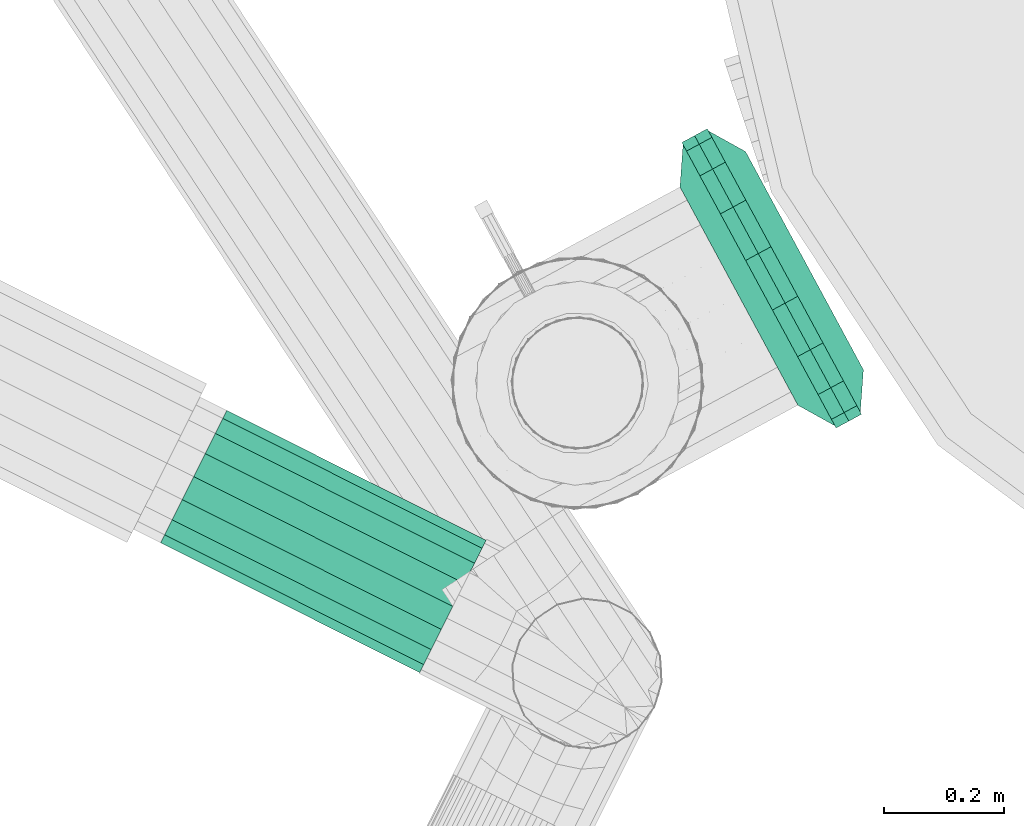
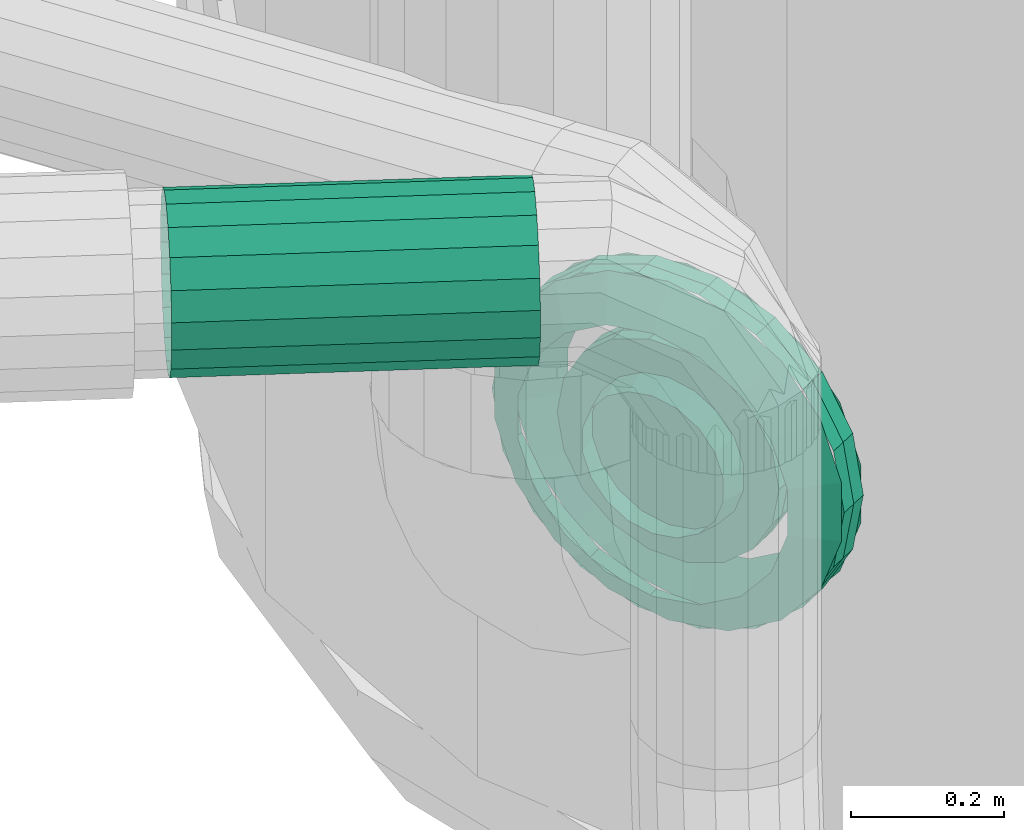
# One storey, part 96 of 206: 2 flow fittings, 1 flow segment.
"""IFC2X3 building model written with IfcOpenShell, lengths in metres."""

from ifc_helpers import new_model, si_unit, derived_unit, direction, frame, origin, place, context, subcontext, project, spatial, face_set, surface_model, source, transform, mapped, material, type_object, type_shapes, element, save


model = new_model("IFC2X3")

# Units and contexts
model_context = context("Model", 3, precision=5.2338327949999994e-05, world=origin(), true_north=direction((0.0, 1.0)))
body_context = subcontext(model_context, "Body", "Model", "MODEL_VIEW")
ifc_project = project(units=[si_unit("LENGTHUNIT", "METRE"), si_unit("AREAUNIT", "SQUARE_METRE"), si_unit("VOLUMEUNIT", "CUBIC_METRE"), si_unit("MASSUNIT", "GRAM", prefix="KILO"), si_unit("PLANEANGLEUNIT", "RADIAN"), derived_unit("THERMALTRANSMITTANCEUNIT", [(si_unit("MASSUNIT", "GRAM", prefix="KILO"), 1), (si_unit("THERMODYNAMICTEMPERATUREUNIT", "KELVIN"), -1), (si_unit("TIMEUNIT", "SECOND"), -3)])], contexts=[model_context])

# Site, building, storey
site_placement = place(None, frame((0.0, 0.0, 0.0), z_axis=(0.0, 0.0, 1.0), x_axis=(0.8939966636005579, -0.4480736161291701, 0.0)))
site = spatial("IfcSite", under=ifc_project, at=site_placement, Name="Default", CompositionType="ELEMENT")
building_placement = place(site_placement, origin())
building = spatial("IfcBuilding", under=site, at=building_placement, CompositionType="ELEMENT")
storey_placement = place(building_placement, origin())
storey = spatial("IfcBuildingStorey", under=building, at=storey_placement, Name="Erdgeschoss", CompositionType="ELEMENT", Elevation=0.0)

# Flow segment
ifc_material_1 = material(Name="IfcSurfaceStyle #251447")
distribution_element_type_1 = type_object("IfcDistributionElementType", Name="Wickelfalzrohr 282826:Wickelfalzrohr 282826", material=ifc_material_1)
shared_shape_1 = source(origin(), body_context, "Body", "SurfaceModel", [
    surface_model("IfcFaceBasedSurfaceModel", [(33.90757135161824, 8.794603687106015, 2.3249999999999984), (33.90757135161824, 8.837356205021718, 2.3174615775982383), (33.425259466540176, 8.837356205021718, 2.317461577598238), (33.425259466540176, 8.79460368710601, 2.3249999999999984), (33.90757135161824, 8.874952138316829, 2.2957555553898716), (33.425259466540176, 8.874952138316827, 2.2957555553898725), (33.90757135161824, 8.902856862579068, 2.2625), (33.425259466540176, 8.902856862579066, 2.2625000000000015), (33.90757135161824, 8.91770465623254, 2.2217060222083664), (33.425259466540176, 8.917704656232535, 2.2217060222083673), (33.90757135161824, 8.917704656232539, 2.1782939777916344), (33.425259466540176, 8.917704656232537, 2.1782939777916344), (33.90757135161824, 8.902856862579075, 2.1374999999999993), (33.425259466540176, 8.902856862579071, 2.1375000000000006), (33.90757135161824, 8.874952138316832, 2.104244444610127), (33.425259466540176, 8.874952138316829, 2.104244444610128), (33.90757135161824, 8.837356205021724, 2.0825384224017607), (33.425259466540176, 8.837356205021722, 2.0825384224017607), (33.90757135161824, 8.794603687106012, 2.0749999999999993), (33.425259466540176, 8.794603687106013, 2.0749999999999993), (33.90757135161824, 8.751851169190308, 2.082538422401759), (33.425259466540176, 8.751851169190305, 2.0825384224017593), (33.90757135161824, 8.714255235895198, 2.1042444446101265), (33.425259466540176, 8.714255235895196, 2.1042444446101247), (33.90757135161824, 8.686350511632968, 2.137499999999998), (33.425259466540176, 8.686350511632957, 2.137499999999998), (33.90757135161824, 8.671502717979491, 2.1782939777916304), (33.425259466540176, 8.671502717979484, 2.1782939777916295), (33.90757135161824, 8.671502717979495, 2.2217060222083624), (33.425259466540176, 8.671502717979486, 2.2217060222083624), (33.90757135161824, 8.686350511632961, 2.262499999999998), (33.425259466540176, 8.686350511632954, 2.2624999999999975), (33.90757135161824, 8.714255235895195, 2.2957555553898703), (33.425259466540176, 8.714255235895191, 2.2957555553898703), (33.90757135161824, 8.751851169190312, 2.317461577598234), (33.425259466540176, 8.751851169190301, 2.317461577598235)], [face_set([[[0, 1, 2, 3]], [[1, 4, 5, 2]], [[4, 6, 7, 5]], [[6, 8, 9, 7]], [[8, 10, 11, 9]], [[10, 12, 13, 11]], [[12, 14, 15, 13]], [[14, 16, 17, 15]], [[16, 18, 19, 17]], [[18, 20, 21, 19]], [[20, 22, 23, 21]], [[22, 24, 25, 23]], [[24, 26, 27, 25]], [[26, 28, 29, 27]], [[28, 30, 31, 29]], [[30, 32, 33, 31]], [[32, 34, 35, 33]], [[34, 0, 3, 35]]])]),
])
type_shapes(distribution_element_type_1, [shared_shape_1])
flow_segment_placement = place(storey_placement, origin())
element("IfcFlowSegment", 1, at=flow_segment_placement, inside=storey, type_object=distribution_element_type_1, material=ifc_material_1, Name="Wickelfalzrohr", ObjectType="Wickelfalzrohr", context=body_context, shape_type="MappedRepresentation", body=[
    mapped(shared_shape_1, transform((0.0, 0.0, 0.0), scale=1.0)),
])

# Flow fittings
ifc_material_2 = material(Name="IfcSurfaceStyle #1741")
distribution_element_type_2 = type_object("IfcDistributionElementType", Name="Flansch 301516:Flansch 301516", material=ifc_material_2)
shared_shape_2 = source(origin(), body_context, "Body", "SurfaceModel", [
    surface_model("IfcFaceBasedSurfaceModel", [(34.172842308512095, 9.571179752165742, 1.5190999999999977), (34.142150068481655, 9.592670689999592, 1.5124933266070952), (34.118126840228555, 9.563102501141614, 1.5199638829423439), (34.15104640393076, 9.540051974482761, 1.527049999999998), (34.115159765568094, 9.611569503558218, 1.4934701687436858), (34.089177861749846, 9.583372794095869, 1.4995602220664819), (34.095126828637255, 9.62559671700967, 1.464325), (34.067691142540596, 9.598417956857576, 1.4683000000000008), (34.08446752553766, 9.633060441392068, 1.4285731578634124), (34.05625829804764, 9.606423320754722, 1.4299536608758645), (34.08446752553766, 9.63306044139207, 1.3905268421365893), (34.05625829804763, 9.606423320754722, 1.3891463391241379), (34.095126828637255, 9.62559671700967, 1.3547749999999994), (34.06769114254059, 9.59841795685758, 1.3508000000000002), (34.115159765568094, 9.611569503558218, 1.3256298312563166), (34.08917786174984, 9.583372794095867, 1.3195397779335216), (34.14215006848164, 9.592670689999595, 1.3066066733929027), (34.11812684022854, 9.563102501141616, 1.299136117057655), (34.17284230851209, 9.571179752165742, 1.2999999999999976), (34.151046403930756, 9.540051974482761, 1.2920499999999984), (34.20353454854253, 9.549688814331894, 1.3066066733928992), (34.183965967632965, 9.517001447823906, 1.299136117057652), (34.23052485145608, 9.530790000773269, 1.325629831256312), (34.212914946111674, 9.496731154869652, 1.3195397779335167), (34.25055778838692, 9.51676278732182, 1.354774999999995), (34.23440166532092, 9.481685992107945, 1.3507999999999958), (34.26121709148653, 9.509299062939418, 1.3905268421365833), (34.245834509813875, 9.4736806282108, 1.3891463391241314), (34.26121709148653, 9.509299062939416, 1.4285731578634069), (34.24583450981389, 9.473680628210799, 1.4299536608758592), (34.25055778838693, 9.516762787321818, 1.4643249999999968), (34.23440166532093, 9.481685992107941, 1.4682999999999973), (34.23052485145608, 9.530790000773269, 1.49347016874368), (34.212914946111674, 9.496731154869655, 1.4995602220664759), (34.20353454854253, 9.549688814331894, 1.5124933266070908), (34.18396596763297, 9.517001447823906, 1.5199638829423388), (34.011790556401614, 9.63755996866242, 1.4095500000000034), (34.02018871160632, 9.631679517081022, 1.3514065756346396), (34.00642287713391, 9.612019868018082, 1.3514065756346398), (33.9980247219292, 9.61790031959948, 1.4095500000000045), (34.044370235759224, 9.614747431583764, 1.300276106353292), (34.0306044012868, 9.595087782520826, 1.3002761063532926), (34.08141848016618, 9.588805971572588, 1.262325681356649), (34.06765264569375, 9.56914632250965, 1.2623256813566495), (34.126864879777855, 9.556984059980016, 1.2421326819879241), (34.11309904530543, 9.537324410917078, 1.2421326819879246), (34.17522792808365, 9.523119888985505, 1.2421326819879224), (34.161462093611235, 9.503460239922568, 1.2421326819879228), (34.22067432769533, 9.491297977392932, 1.2623256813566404), (34.206908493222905, 9.471638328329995, 1.2623256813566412), (34.257722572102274, 9.465356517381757, 1.3002761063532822), (34.24395673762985, 9.445696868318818, 1.3002761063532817), (34.281904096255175, 9.448424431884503, 1.3514065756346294), (34.26813826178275, 9.428764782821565, 1.3514065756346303), (34.29030225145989, 9.442543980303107, 1.4095499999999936), (34.27653641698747, 9.422884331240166, 1.409549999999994), (34.28190409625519, 9.448424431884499, 1.4676934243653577), (34.26813826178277, 9.428764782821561, 1.4676934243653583), (34.25772257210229, 9.465356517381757, 1.5188238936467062), (34.243956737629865, 9.44569686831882, 1.5188238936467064), (34.22067432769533, 9.491297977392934, 1.55677431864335), (34.20690849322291, 9.471638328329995, 1.556774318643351), (34.17522792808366, 9.523119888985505, 1.5769673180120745), (34.161462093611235, 9.503460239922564, 1.576967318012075), (34.12686487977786, 9.556984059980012, 1.576967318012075), (34.11309904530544, 9.537324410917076, 1.5769673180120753), (34.081418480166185, 9.588805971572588, 1.5567743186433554), (34.06765264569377, 9.569146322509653, 1.556774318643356), (34.04437023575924, 9.614747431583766, 1.5188238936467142), (34.030604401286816, 9.595087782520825, 1.518823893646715), (34.02018871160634, 9.631679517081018, 1.4676934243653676), (34.00642287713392, 9.612019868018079, 1.4676934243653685), (34.151046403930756, 9.540051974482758, 1.4095499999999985), (34.1728423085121, 9.571179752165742, 1.619099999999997), (34.11413341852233, 9.61228815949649, 1.6064625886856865), (34.075401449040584, 9.59301914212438, 1.6632670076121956), (34.15104640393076, 9.540051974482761, 1.6795499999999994), (34.062505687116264, 9.648438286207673, 1.570074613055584), (34.00888039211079, 9.639597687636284, 1.616381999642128), (34.02418618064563, 9.675269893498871, 1.5143250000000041), (33.95950665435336, 9.674169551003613, 1.5445500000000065), (34.00379679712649, 9.68954669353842, 1.44593797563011), (33.9332354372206, 9.692564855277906, 1.456435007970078), (34.00379679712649, 9.68954669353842, 1.3731620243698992), (33.93323543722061, 9.692564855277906, 1.3626649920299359), (34.02418618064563, 9.675269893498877, 1.3047750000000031), (33.95950665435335, 9.674169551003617, 1.2745500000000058), (34.06250568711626, 9.648438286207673, 1.2490253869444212), (34.00888039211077, 9.639597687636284, 1.2027180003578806), (34.114133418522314, 9.61228815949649, 1.2126374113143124), (34.07540144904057, 9.59301914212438, 1.1558329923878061), (34.17284230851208, 9.571179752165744, 1.1999999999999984), (34.151046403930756, 9.54005197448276, 1.1395499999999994), (34.231551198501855, 9.530071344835, 1.2126374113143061), (34.226691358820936, 9.48708480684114, 1.1558329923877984), (34.28317892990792, 9.493921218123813, 1.249025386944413), (34.29321241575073, 9.440506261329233, 1.2027180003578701), (34.32149843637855, 9.467089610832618, 1.3047749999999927), (34.34258615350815, 9.405934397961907, 1.2745499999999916), (34.34188781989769, 9.452812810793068, 1.373162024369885), (34.36885737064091, 9.387539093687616, 1.3626649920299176), (34.3418878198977, 9.45281281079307, 1.4459379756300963), (34.36885737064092, 9.387539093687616, 1.4564350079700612), (34.32149843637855, 9.467089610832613, 1.5143249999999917), (34.34258615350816, 9.405934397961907, 1.54454999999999), (34.28317892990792, 9.49392121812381, 1.5700746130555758), (34.29321241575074, 9.440506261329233, 1.616381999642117), (34.231551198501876, 9.530071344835, 1.606462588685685), (34.22669135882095, 9.48708480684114, 1.6632670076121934), (33.92987535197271, 9.694917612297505, 1.4095500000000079), (33.943213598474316, 9.685578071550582, 1.317204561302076), (33.92944776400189, 9.665918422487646, 1.3172045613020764), (33.91610951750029, 9.67525796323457, 1.4095500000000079), (33.98161954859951, 9.658685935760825, 1.2359973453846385), (33.96785371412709, 9.639026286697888, 1.235997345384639), (34.04046087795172, 9.617484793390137, 1.1757231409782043), (34.02669504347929, 9.5978251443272, 1.175723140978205), (34.11264045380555, 9.56694411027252, 1.143651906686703), (34.09887461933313, 9.54728446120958, 1.1436519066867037), (34.189452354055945, 9.513159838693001, 1.1436519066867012), (34.17568651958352, 9.493500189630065, 1.1436519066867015), (34.26163192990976, 9.462619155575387, 1.1757231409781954), (34.247866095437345, 9.442959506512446, 1.175723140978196), (34.320473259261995, 9.421418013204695, 1.235997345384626), (34.306707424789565, 9.401758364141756, 1.235997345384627), (34.3588792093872, 9.394525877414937, 1.317204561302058), (34.345113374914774, 9.374866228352, 1.3172045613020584), (34.3722174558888, 9.385186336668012, 1.4095499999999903), (34.35845162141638, 9.365526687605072, 1.409549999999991), (34.3588792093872, 9.394525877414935, 1.501895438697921), (34.345113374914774, 9.374866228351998, 1.501895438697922), (34.320473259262, 9.421418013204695, 1.5831026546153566), (34.306707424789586, 9.40175836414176, 1.5831026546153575), (34.2616319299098, 9.462619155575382, 1.6433768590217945), (34.247866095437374, 9.442959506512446, 1.6433768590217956), (34.18945235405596, 9.513159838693, 1.6754480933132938), (34.17568651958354, 9.493500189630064, 1.6754480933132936), (34.11264045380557, 9.566944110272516, 1.6754480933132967), (34.09887461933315, 9.54728446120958, 1.6754480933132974), (34.040460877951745, 9.617484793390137, 1.6433768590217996), (34.026695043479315, 9.597825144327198, 1.6433768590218), (33.981619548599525, 9.658685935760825, 1.5831026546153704), (33.967853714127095, 9.639026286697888, 1.5831026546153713), (33.94321359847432, 9.685578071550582, 1.5018954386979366), (33.9294477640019, 9.665918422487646, 1.5018954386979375)], [face_set([[[0, 1, 2, 3]], [[1, 4, 5, 2]], [[4, 6, 7, 5]], [[6, 8, 9, 7]], [[8, 10, 11, 9]], [[10, 12, 13, 11]], [[12, 14, 15, 13]], [[14, 16, 17, 15]], [[16, 18, 19, 17]], [[18, 20, 21, 19]], [[20, 22, 23, 21]], [[22, 24, 25, 23]], [[24, 26, 27, 25]], [[26, 28, 29, 27]], [[28, 30, 31, 29]], [[30, 32, 33, 31]], [[32, 34, 35, 33]], [[34, 0, 3, 35]], [[36, 37, 38, 39]], [[37, 40, 41, 38]], [[40, 42, 43, 41]], [[42, 44, 45, 43]], [[44, 46, 47, 45]], [[46, 48, 49, 47]], [[48, 50, 51, 49]], [[50, 52, 53, 51]], [[52, 54, 55, 53]], [[54, 56, 57, 55]], [[56, 58, 59, 57]], [[58, 60, 61, 59]], [[60, 62, 63, 61]], [[62, 64, 65, 63]], [[64, 66, 67, 65]], [[66, 68, 69, 67]], [[68, 70, 71, 69]], [[70, 36, 39, 71]], [[72, 37, 36]], [[72, 40, 37]], [[72, 42, 40]], [[72, 44, 42]], [[72, 46, 44]], [[72, 48, 46]], [[72, 50, 48]], [[72, 52, 50]], [[72, 54, 52]], [[72, 56, 54]], [[72, 58, 56]], [[72, 60, 58]], [[72, 62, 60]], [[72, 64, 62]], [[72, 66, 64]], [[72, 68, 66]], [[72, 70, 68]], [[72, 36, 70]], [[73, 74, 75, 76]], [[74, 77, 78, 75]], [[77, 79, 80, 78]], [[79, 81, 82, 80]], [[81, 83, 84, 82]], [[83, 85, 86, 84]], [[85, 87, 88, 86]], [[87, 89, 90, 88]], [[89, 91, 92, 90]], [[91, 93, 94, 92]], [[93, 95, 96, 94]], [[95, 97, 98, 96]], [[97, 99, 100, 98]], [[99, 101, 102, 100]], [[101, 103, 104, 102]], [[103, 105, 106, 104]], [[105, 107, 108, 106]], [[107, 73, 76, 108]], [[109, 110, 111, 112]], [[110, 113, 114, 111]], [[113, 115, 116, 114]], [[115, 117, 118, 116]], [[117, 119, 120, 118]], [[119, 121, 122, 120]], [[121, 123, 124, 122]], [[123, 125, 126, 124]], [[125, 127, 128, 126]], [[127, 129, 130, 128]], [[129, 131, 132, 130]], [[131, 133, 134, 132]], [[133, 135, 136, 134]], [[135, 137, 138, 136]], [[137, 139, 140, 138]], [[139, 141, 142, 140]], [[141, 143, 144, 142]], [[143, 109, 112, 144]]])]),
])
type_shapes(distribution_element_type_2, [shared_shape_2])
flow_fitting_1_placement = place(storey_placement, origin())
element("IfcFlowFitting", 2, at=flow_fitting_1_placement, inside=storey, type_object=distribution_element_type_2, material=ifc_material_2, Name="Flansch", ObjectType="Flansch", context=body_context, shape_type="MappedRepresentation", body=[
    mapped(shared_shape_2, transform((0.0, 0.0, 0.0), scale=1.0)),
])
distribution_element_type_3 = type_object("IfcDistributionElementType", Name="Flansch 301545:Flansch 301545", material=ifc_material_2)
shared_shape_3 = source(origin(), body_context, "Body", "SurfaceModel", [
    surface_model("IfcFaceBasedSurfaceModel", [(34.10171883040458, 9.469604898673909, 1.3), (34.07102659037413, 9.491095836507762, 1.3066066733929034), (34.09059517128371, 9.523783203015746, 1.299136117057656), (34.12351473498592, 9.50073267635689, 1.2920500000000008), (34.044036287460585, 9.509994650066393, 1.325629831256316), (34.061646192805, 9.544053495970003, 1.3195397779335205), (34.024003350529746, 9.524021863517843, 1.3547749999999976), (34.04015947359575, 9.559098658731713, 1.350799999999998), (34.01334404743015, 9.531485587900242, 1.3905268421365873), (34.0287266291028, 9.567104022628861, 1.3891463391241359), (34.01334404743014, 9.531485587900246, 1.4285731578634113), (34.02872662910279, 9.567104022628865, 1.429953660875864), (34.02400335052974, 9.524021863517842, 1.464325), (34.04015947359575, 9.559098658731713, 1.4683000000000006), (34.044036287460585, 9.509994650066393, 1.4934701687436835), (34.06164619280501, 9.544053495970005, 1.49956022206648), (34.07102659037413, 9.491095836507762, 1.5124933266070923), (34.0905951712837, 9.523783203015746, 1.5199638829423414), (34.10171883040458, 9.46960489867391, 1.5191), (34.12351473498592, 9.500732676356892, 1.5270500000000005), (34.13241107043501, 9.448113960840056, 1.5124933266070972), (34.15643429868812, 9.477682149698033, 1.5199638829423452), (34.15940137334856, 9.429215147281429, 1.4934701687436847), (34.18538327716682, 9.457411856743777, 1.4995602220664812), (34.1794343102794, 9.415187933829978, 1.4643249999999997), (34.20686999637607, 9.442366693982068, 1.4683000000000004), (34.190093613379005, 9.407724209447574, 1.4285731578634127), (34.21830284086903, 9.43436133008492, 1.4299536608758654), (34.190093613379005, 9.407724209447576, 1.3905268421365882), (34.21830284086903, 9.43436133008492, 1.389146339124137), (34.179434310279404, 9.415187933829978, 1.3547750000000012), (34.20686999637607, 9.44236669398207, 1.3508000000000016), (34.159401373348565, 9.429215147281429, 1.325629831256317), (34.18538327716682, 9.457411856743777, 1.319539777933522), (34.13241107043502, 9.448113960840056, 1.3066066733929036), (34.15643429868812, 9.477682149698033, 1.2991361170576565), (33.98425888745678, 9.598240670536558, 1.4095499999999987), (33.9926570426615, 9.59236021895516, 1.467693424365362), (34.00642287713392, 9.612019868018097, 1.4676934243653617), (33.998024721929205, 9.617900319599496, 1.4095499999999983), (34.0168385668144, 9.575428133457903, 1.518823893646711), (34.03060440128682, 9.595087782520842, 1.5188238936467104), (34.053886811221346, 9.549486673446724, 1.5567743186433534), (34.06765264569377, 9.569146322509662, 1.5567743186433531), (34.09933321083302, 9.51766476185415, 1.5769673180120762), (34.11309904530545, 9.537324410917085, 1.5769673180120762), (34.14769625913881, 9.483800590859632, 1.5769673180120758), (34.161462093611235, 9.50346023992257, 1.576967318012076), (34.193142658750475, 9.451978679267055, 1.5567743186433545), (34.20690849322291, 9.471638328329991, 1.5567743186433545), (34.23019090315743, 9.426037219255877, 1.518823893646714), (34.24395673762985, 9.445696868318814, 1.5188238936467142), (34.25437242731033, 9.409105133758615, 1.4676934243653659), (34.26813826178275, 9.428764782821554, 1.4676934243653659), (34.26277058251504, 9.403224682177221, 1.4095500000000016), (34.276536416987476, 9.422884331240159, 1.4095500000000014), (34.25437242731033, 9.409105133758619, 1.3514065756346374), (34.26813826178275, 9.428764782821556, 1.3514065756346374), (34.230190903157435, 9.426037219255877, 1.3002761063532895), (34.24395673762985, 9.445696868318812, 1.30027610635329), (34.193142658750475, 9.451978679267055, 1.262325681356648), (34.206908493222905, 9.471638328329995, 1.262325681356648), (34.14769625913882, 9.483800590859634, 1.2421326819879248), (34.161462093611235, 9.50346023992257, 1.2421326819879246), (34.09933321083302, 9.517664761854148, 1.2421326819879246), (34.11309904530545, 9.537324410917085, 1.2421326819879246), (34.05388681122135, 9.549486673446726, 1.2623256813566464), (34.06765264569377, 9.569146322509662, 1.2623256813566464), (34.0168385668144, 9.575428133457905, 1.3002761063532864), (34.03060440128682, 9.595087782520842, 1.3002761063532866), (33.992657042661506, 9.592360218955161, 1.3514065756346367), (34.00642287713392, 9.612019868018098, 1.3514065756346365), (34.12351473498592, 9.50073267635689, 1.4095500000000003), (34.101718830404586, 9.469604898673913, 1.2000000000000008), (34.04300994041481, 9.510713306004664, 1.212637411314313), (34.04786978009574, 9.553699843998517, 1.155832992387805), (34.12351473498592, 9.50073267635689, 1.1395500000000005), (33.991382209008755, 9.546863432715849, 1.2490253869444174), (33.98134872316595, 9.600278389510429, 1.2027180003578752), (33.95306270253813, 9.573695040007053, 1.3047749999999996), (33.93197498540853, 9.634850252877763, 1.2745499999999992), (33.93267331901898, 9.587971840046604, 1.373162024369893), (33.90570376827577, 9.653245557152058, 1.3626649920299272), (33.93267331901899, 9.587971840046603, 1.4459379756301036), (33.90570376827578, 9.653245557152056, 1.4564350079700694), (33.953062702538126, 9.573695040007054, 1.5143249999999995), (33.93197498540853, 9.634850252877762, 1.5445499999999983), (33.99138220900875, 9.54686343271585, 1.5700746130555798), (33.98134872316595, 9.600278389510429, 1.616381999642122), (34.04300994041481, 9.510713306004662, 1.606462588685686), (34.04786978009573, 9.55369984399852, 1.663267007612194), (34.10171883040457, 9.469604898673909, 1.6191000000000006), (34.12351473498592, 9.500732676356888, 1.679550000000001), (34.16042772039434, 9.428496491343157, 1.6064625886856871), (34.1991596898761, 9.447765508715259, 1.6632670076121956), (34.2120554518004, 9.39234636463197, 1.570074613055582), (34.26568074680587, 9.401186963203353, 1.6163819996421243), (34.250374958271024, 9.365514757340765, 1.5143250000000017), (34.315054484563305, 9.366615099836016, 1.544550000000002), (34.27076434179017, 9.351237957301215, 1.4459379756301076), (34.34132570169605, 9.348219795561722, 1.4564350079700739), (34.27076434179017, 9.351237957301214, 1.3731620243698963), (34.34132570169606, 9.348219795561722, 1.3626649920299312), (34.250374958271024, 9.365514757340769, 1.304775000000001), (34.3150544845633, 9.366615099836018, 1.274550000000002), (34.21205545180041, 9.39234636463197, 1.2490253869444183), (34.265680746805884, 9.401186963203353, 1.2027180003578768), (34.160427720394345, 9.428496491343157, 1.2126374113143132), (34.19915968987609, 9.447765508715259, 1.1558329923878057), (33.90234368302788, 9.655598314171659, 1.4095499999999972), (33.91568192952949, 9.64625877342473, 1.5018954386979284), (33.92944776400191, 9.665918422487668, 1.5018954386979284), (33.916109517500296, 9.675257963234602, 1.4095499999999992), (33.954087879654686, 9.619366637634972, 1.5831026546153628), (33.967853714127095, 9.639026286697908, 1.5831026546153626), (34.01292920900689, 9.578165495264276, 1.6433768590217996), (34.026695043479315, 9.597825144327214, 1.6433768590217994), (34.085108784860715, 9.527624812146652, 1.6754480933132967), (34.098874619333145, 9.547284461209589, 1.6754480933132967), (34.161920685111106, 9.473840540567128, 1.6754480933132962), (34.17568651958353, 9.493500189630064, 1.675448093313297), (34.23410026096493, 9.423299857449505, 1.6433768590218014), (34.247866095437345, 9.442959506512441, 1.6433768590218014), (34.29294159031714, 9.38209871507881, 1.5831026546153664), (34.306707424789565, 9.401758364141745, 1.5831026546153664), (34.33134754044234, 9.355206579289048, 1.5018954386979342), (34.34511337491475, 9.374866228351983, 1.5018954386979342), (34.344685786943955, 9.345867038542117, 1.4095500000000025), (34.35845162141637, 9.365526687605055, 1.4095500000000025), (34.33134754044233, 9.355206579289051, 1.317204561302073), (34.34511337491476, 9.374866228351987, 1.317204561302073), (34.29294159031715, 9.382098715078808, 1.2359973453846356), (34.30670742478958, 9.401758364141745, 1.2359973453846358), (34.23410026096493, 9.423299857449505, 1.1757231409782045), (34.24786609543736, 9.442959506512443, 1.1757231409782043), (34.161920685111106, 9.47384054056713, 1.1436519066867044), (34.17568651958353, 9.493500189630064, 1.1436519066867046), (34.085108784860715, 9.527624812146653, 1.143651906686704), (34.09887461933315, 9.547284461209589, 1.143651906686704), (34.0129292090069, 9.578165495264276, 1.175723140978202), (34.026695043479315, 9.597825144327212, 1.175723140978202), (33.95408787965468, 9.619366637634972, 1.2359973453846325), (33.96785371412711, 9.63902628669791, 1.235997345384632), (33.91568192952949, 9.646258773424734, 1.3172045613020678), (33.92944776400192, 9.66591842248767, 1.317204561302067)], [face_set([[[0, 1, 2, 3]], [[1, 4, 5, 2]], [[4, 6, 7, 5]], [[6, 8, 9, 7]], [[8, 10, 11, 9]], [[10, 12, 13, 11]], [[12, 14, 15, 13]], [[14, 16, 17, 15]], [[16, 18, 19, 17]], [[18, 20, 21, 19]], [[20, 22, 23, 21]], [[22, 24, 25, 23]], [[24, 26, 27, 25]], [[26, 28, 29, 27]], [[28, 30, 31, 29]], [[30, 32, 33, 31]], [[32, 34, 35, 33]], [[34, 0, 3, 35]], [[36, 37, 38, 39]], [[37, 40, 41, 38]], [[40, 42, 43, 41]], [[42, 44, 45, 43]], [[44, 46, 47, 45]], [[46, 48, 49, 47]], [[48, 50, 51, 49]], [[50, 52, 53, 51]], [[52, 54, 55, 53]], [[54, 56, 57, 55]], [[56, 58, 59, 57]], [[58, 60, 61, 59]], [[60, 62, 63, 61]], [[62, 64, 65, 63]], [[64, 66, 67, 65]], [[66, 68, 69, 67]], [[68, 70, 71, 69]], [[70, 36, 39, 71]], [[72, 37, 36]], [[72, 40, 37]], [[72, 42, 40]], [[72, 44, 42]], [[72, 46, 44]], [[72, 48, 46]], [[72, 50, 48]], [[72, 52, 50]], [[72, 54, 52]], [[72, 56, 54]], [[72, 58, 56]], [[72, 60, 58]], [[72, 62, 60]], [[72, 64, 62]], [[72, 66, 64]], [[72, 68, 66]], [[72, 70, 68]], [[72, 36, 70]], [[73, 74, 75, 76]], [[74, 77, 78, 75]], [[77, 79, 80, 78]], [[79, 81, 82, 80]], [[81, 83, 84, 82]], [[83, 85, 86, 84]], [[85, 87, 88, 86]], [[87, 89, 90, 88]], [[89, 91, 92, 90]], [[91, 93, 94, 92]], [[93, 95, 96, 94]], [[95, 97, 98, 96]], [[97, 99, 100, 98]], [[99, 101, 102, 100]], [[101, 103, 104, 102]], [[103, 105, 106, 104]], [[105, 107, 108, 106]], [[107, 73, 76, 108]], [[109, 110, 111, 112]], [[110, 113, 114, 111]], [[113, 115, 116, 114]], [[115, 117, 118, 116]], [[117, 119, 120, 118]], [[119, 121, 122, 120]], [[121, 123, 124, 122]], [[123, 125, 126, 124]], [[125, 127, 128, 126]], [[127, 129, 130, 128]], [[129, 131, 132, 130]], [[131, 133, 134, 132]], [[133, 135, 136, 134]], [[135, 137, 138, 136]], [[137, 139, 140, 138]], [[139, 141, 142, 140]], [[141, 143, 144, 142]], [[143, 109, 112, 144]]])]),
])
type_shapes(distribution_element_type_3, [shared_shape_3])
flow_fitting_2_placement = place(storey_placement, origin())
element("IfcFlowFitting", 3, at=flow_fitting_2_placement, inside=storey, type_object=distribution_element_type_3, material=ifc_material_2, Name="Flansch", ObjectType="Flansch", context=body_context, shape_type="MappedRepresentation", body=[
    mapped(shared_shape_3, transform((0.0, 0.0, 0.0), scale=1.0)),
])

save(model, "model.ifc")
